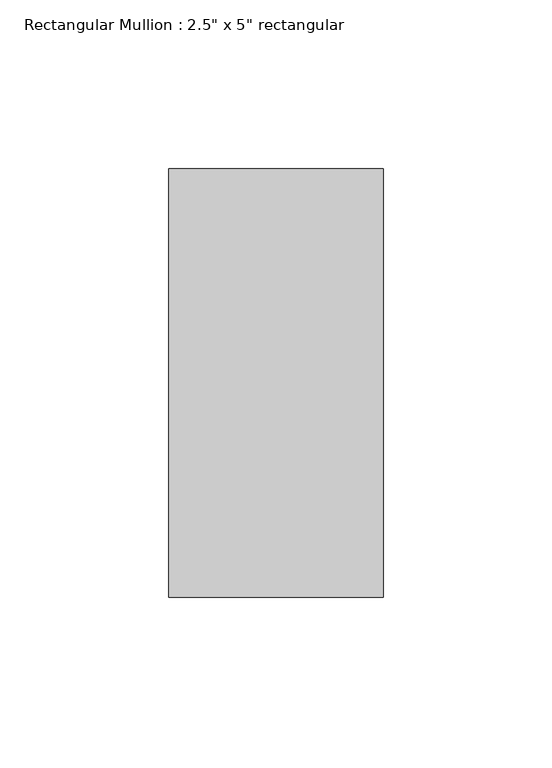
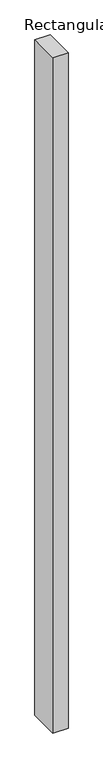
"""IFC4 building model written with IfcOpenShell, lengths in millimetres: member geometry."""

from ifc_helpers import new_model, si_unit, frame, origin, place, context, project, spatial, polyline, outline, extrude, source, transform, mapped, element, save


def member_4bc89457(model_context):
    return source(origin(), model_context, "Body", "SweptSolid", [
        extrude(outline(polyline([(31.75, 63.5), (31.75, -63.5), (-31.75, -63.5), (-31.75, 63.5), (31.75, 63.5)])), frame((0.0, 0.0, -2952.7500002), z_axis=(0.0, 0.0, 1.0), x_axis=(1.0, 0.0, 0.0)), (0.0, 0.0, 1.0), 2952.7500002),
    ])


if __name__ == "__main__":
    model = new_model("IFC4")
    model_context = context("Model", 3, world=origin())
    ifc_project = project(units=[si_unit("LENGTHUNIT", "METRE", prefix="MILLI")], contexts=[model_context])
    site = spatial("IfcSite", under=ifc_project)
    building = spatial("IfcBuilding", under=site)
    placement = place(None, origin())
    member_shape = member_4bc89457(model_context)
    element("IfcMember", 1, ObjectType="Rectangular Mullion : 2.5\" x 5\" rectangular", at=placement, inside=building, context=model_context, shape_type="MappedRepresentation", body=[
        mapped(member_shape, transform((0.0, 0.0, 0.0), x_axis=(1.0, 0.0, 0.0), y_axis=(0.0, 1.0, 0.0), z_axis=(0.0, 0.0, 1.0))),
    ])
    save(model, "model.ifc")
